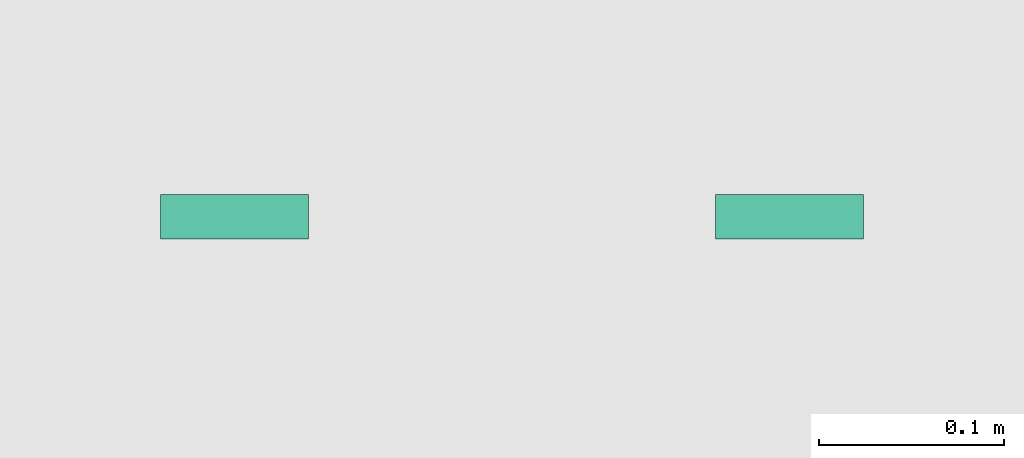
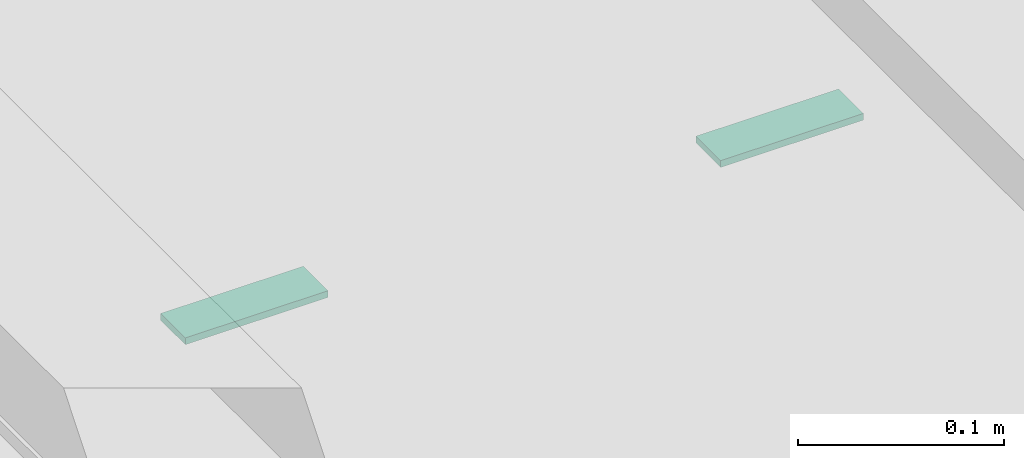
# One storey, part 136 of 177: 2 distribution chamber elements.
"""IFC4 building model written with IfcOpenShell, lengths in metres."""

from ifc_helpers import new_model, si_unit, origin, origin_with_axes, place, context, subcontext, project, spatial, triangles, element, save


model = new_model("IFC4")

# Units and contexts
model_context = context("Model", 3, precision=1e-05, world=origin_with_axes())
body_context = subcontext(model_context, "Body", "Model", "MODEL_VIEW")
ifc_project = project(units=[si_unit("LENGTHUNIT", "METRE"), si_unit("AREAUNIT", "SQUARE_METRE"), si_unit("VOLUMEUNIT", "CUBIC_METRE"), si_unit("PLANEANGLEUNIT", "RADIAN")], contexts=[model_context])

# Site, building, storey
site_placement = place(None, origin_with_axes())
site = spatial("IfcSite", under=ifc_project, at=site_placement, Name="Predio Los Mangos - Morales, San Martín", CompositionType="ELEMENT")
building_placement = place(site_placement, origin())
building = spatial("IfcBuilding", under=site, at=building_placement, Name="Hogar de Refugio Temporal", CompositionType="ELEMENT")
storey_placement = place(building_placement, origin())
storey = spatial("IfcBuildingStorey", under=building, at=storey_placement, Name="NIVEL 1 (NPT +0.00)", CompositionType="ELEMENT", Elevation=0.0)

# Distribution chamber elements
distribution_chamber_element_1_placement = place(storey_placement, origin())
element("IfcDistributionChamberElement", 1, at=distribution_chamber_element_1_placement, inside=storey, Name="tapa_insp_asa", ObjectType="Tapa de inspección", PredefinedType="INSPECTIONCHAMBER", context=body_context, shape_type="Tessellation", body=[
    triangles([(60.545, 26.214, 0.104), (60.625, 26.214, 0.104), (60.625, 26.238, 0.104), (60.545, 26.238, 0.104), (60.545, 26.214, 0.108), (60.625, 26.214, 0.108), (60.625, 26.238, 0.108), (60.545, 26.238, 0.108)], [[1, 4, 3], [1, 3, 2], [5, 6, 7], [5, 7, 8], [1, 2, 6], [1, 6, 5], [2, 3, 7], [2, 7, 6], [3, 4, 8], [3, 8, 7], [4, 1, 5], [4, 5, 8]]),
])
distribution_chamber_element_2_placement = place(storey_placement, origin())
element("IfcDistributionChamberElement", 2, at=distribution_chamber_element_2_placement, inside=storey, Name="tapa_insp_asa", ObjectType="Tapa de inspección", PredefinedType="INSPECTIONCHAMBER", context=body_context, shape_type="Tessellation", body=[
    triangles([(60.845, 26.214, 0.104), (60.925, 26.214, 0.104), (60.925, 26.238, 0.104), (60.845, 26.238, 0.104), (60.845, 26.214, 0.108), (60.925, 26.214, 0.108), (60.925, 26.238, 0.108), (60.845, 26.238, 0.108)], [[1, 4, 3], [1, 3, 2], [5, 6, 7], [5, 7, 8], [1, 2, 6], [1, 6, 5], [2, 3, 7], [2, 7, 6], [3, 4, 8], [3, 8, 7], [4, 1, 5], [4, 5, 8]]),
])

save(model, "model.ifc")
